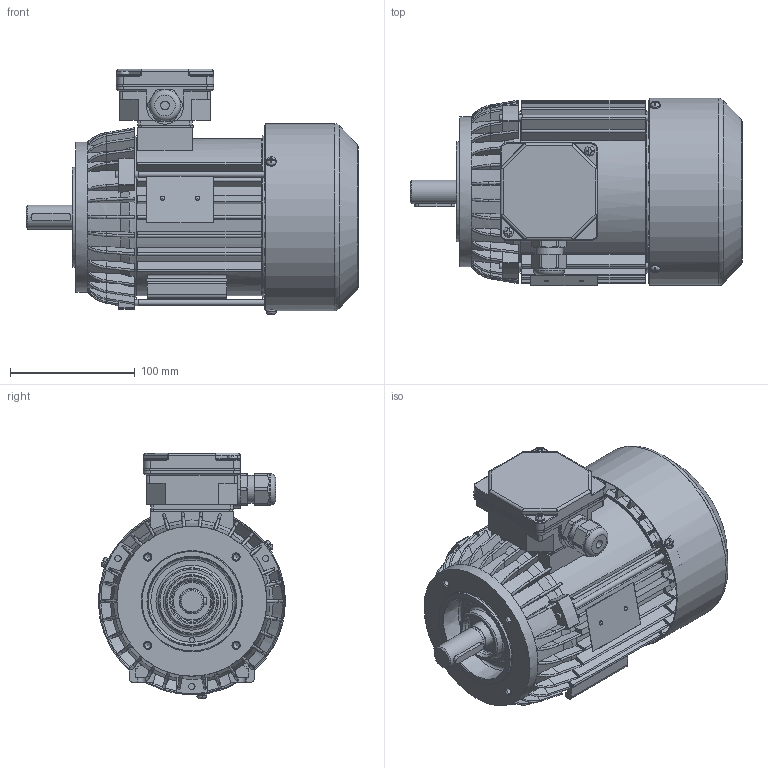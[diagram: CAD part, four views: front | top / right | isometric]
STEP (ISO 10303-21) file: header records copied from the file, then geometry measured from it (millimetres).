
FILE_DESCRIPTION(/* description */ ('Unknown'),/* implementation_level */ '2;1');
FILE_NAME(/* name */ '2SIEK80-4A2',/* time_stamp */ '2021-04-12T14:52:26+02:00',/* author */ ('Unknown'),/* organization */ ('Unknown'),/* preprocessor_version */ 'ST-DEVELOPER v16.7',/* originating_system */ 'Solid Edge',/* authorisation */ 'Unknown');
FILE_SCHEMA (('AUTOMOTIVE_DESIGN {1 0 10303 214 3 1 1}'));
Products named in the file (1): 2SIEK80-4A2
Bounding box: 265.79 x 150.01 x 196.68 mm (x, y, z)
Volume: 772395 mm3; surface area: 475056 mm2
Topology: 3 solids, 3 shells, 2472 faces, 7119 edges, 4608 vertices
Faces by surface type: plane 1186, cylinder 753, bspline 280, torus 127, cone 108, sphere 18
Full cylindrical faces by diameter (mm): 2 x2, 2.4 x2, 3 x1, 3.7 x8, 4 x4, 4.5 x1, 4.6 x3, 4.8 x2, 5 x12, 5.5 x3, 7 x1, 8 x9, 18.598 x1, 18.998 x1, 19.298 x1, 19.498 x1, 20.298 x2, 20.398 x2, 20.4 x2, 22.3 x1, 25 x1, 25.497 x1, 25.647 x1, 25.997 x3, 26.047 x1, 28.799 x4, 30 x1, 34 x1, 38.198 x4, 42 x2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
Entity records: 102438 total; most frequent: CARTESIAN_POINT 25025, ORIENTED_EDGE 13392, DIRECTION 11956, EDGE_CURVE 6696, VERTEX_POINT 4454, AXIS2_PLACEMENT_3D 4331, LINE 3294, VECTOR 3294
